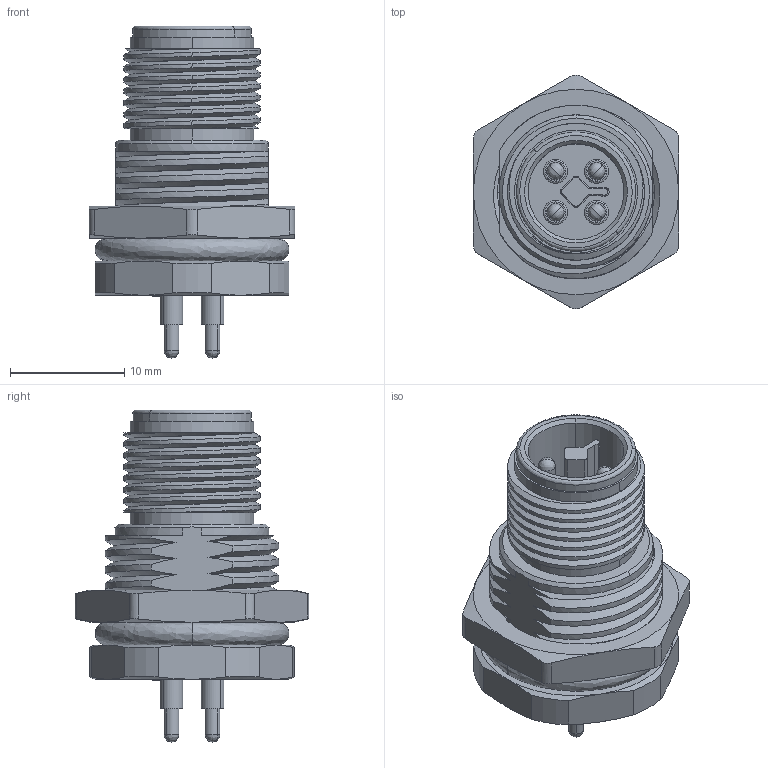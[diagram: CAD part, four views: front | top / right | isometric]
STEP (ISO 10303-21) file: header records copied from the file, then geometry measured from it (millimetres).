
FILE_DESCRIPTION (( 'STEP AP203' ), '1' );
FILE_NAME ('860-T04-113R004.STEP', '2024-08-14T18:08:34', ( '' ), ( '' ), 'SwSTEP 2.0', 'SolidWorks 2020', '' );
FILE_SCHEMA (( 'CONFIG_CONTROL_DESIGN' ));
Length unit declared in the file: millimetre
Products named in the file (1): 860-T04-113R004
Bounding box: 18 x 20.5 x 29.1 mm (x, y, z)
Volume: 2868.3 mm3; surface area: 4001.5 mm2
Topology: 2 solids, 2 shells, 354 faces, 912 edges, 554 vertices
Faces by surface type: cylinder 156, bspline 84, plane 69, cone 45
Entity records: 23598 total; most frequent: CARTESIAN_POINT 15755, ORIENTED_EDGE 1760, DIRECTION 1398, EDGE_CURVE 880, AXIS2_PLACEMENT_3D 562, VERTEX_POINT 554, EDGE_LOOP 392, FACE_OUTER_BOUND 354
